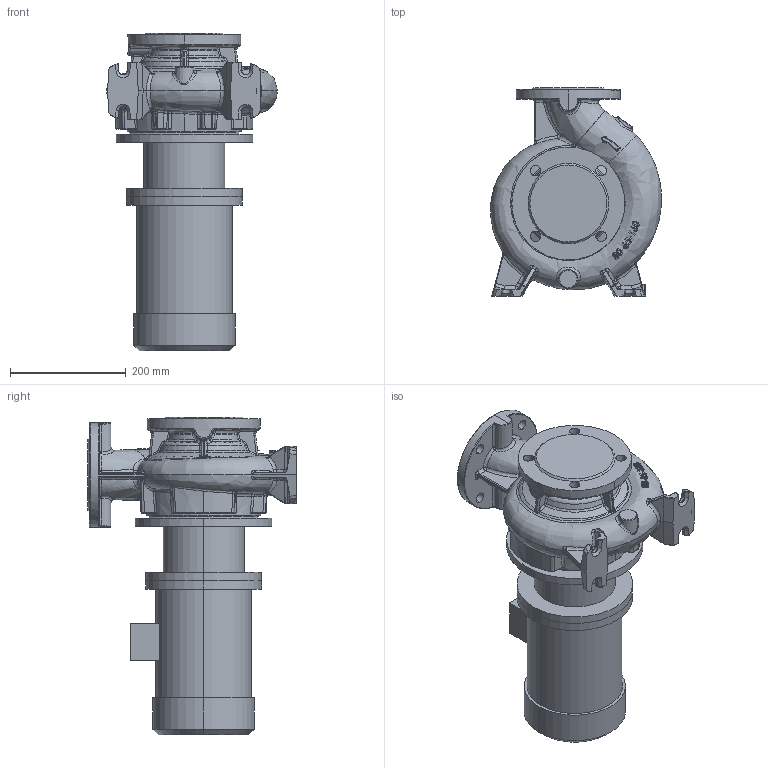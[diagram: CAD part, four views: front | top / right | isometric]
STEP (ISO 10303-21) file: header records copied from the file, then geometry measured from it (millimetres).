
FILE_DESCRIPTION (( 'STEP AP203' ), '1' );
FILE_NAME ('KRM 80-65-160-4-1,1.STEP', '2026-05-07T11:51:22', ( '' ), ( '' ), 'SwSTEP 2.0', 'SolidWorks 2016', '' );
FILE_SCHEMA (( 'CONFIG_CONTROL_DESIGN' ));
Products named in the file (1): KRM 80-65-160-4-1,1
Bounding box: 295.28 x 360 x 548.8 mm (x, y, z)
Volume: 17046363.4 mm3; surface area: 870175.6 mm2
Topology: 14 solids, 14 shells, 1113 faces, 2656 edges, 1559 vertices
Faces by surface type: bspline 533, cylinder 208, plane 191, torus 104, cone 58, sphere 19
Entity records: 61492 total; most frequent: CARTESIAN_POINT 39770, ORIENTED_EDGE 5254, DIRECTION 3533, EDGE_CURVE 2627, VERTEX_POINT 1559, AXIS2_PLACEMENT_3D 1480, EDGE_LOOP 1158, ADVANCED_FACE 1113
